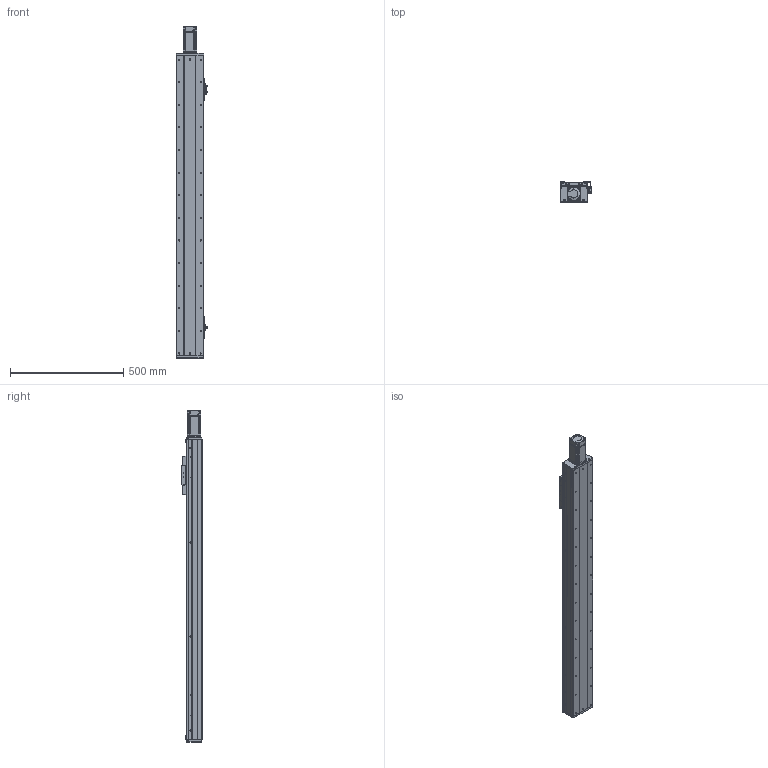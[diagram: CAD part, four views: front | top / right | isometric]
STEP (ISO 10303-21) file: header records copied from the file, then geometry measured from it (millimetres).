
FILE_DESCRIPTION (( 'STEP AP203' ), '1' );
FILE_NAME ('RY120F-L2010-1000-MK.SLDASM_1050.step', '2021-03-02T06:06:02', ( '盈信电脑' ), ( '东莞市道滘镇水果街19号' ), 'SwSTEP 2.0', 'SolidWorks 2012', '' );
FILE_SCHEMA (( 'CONFIG_CONTROL_DESIGN' ));
Length unit declared in the file: millimetre
Products named in the file (23): 15; RY120F-臏賑輸 20蹟譫; 絳寢賑輸EGH15; RY120F-铝滑块上座（优力胶）; RY120F-1000-倰第裔啣_1050; RY120F滅鳥詩湍-1000-MK_1050; RY120F-1000-倰第菁釱_1050; 粣杶; RY120F-蚥薯蝶幗謫郪磁; RY120F-L2010-1000-MK.SLDASM_1050; 蚥薯蝶幗謫; MF95ZZ; 滅袉蝶18-17; RY120F-钢带滚轮轴(优力胶); 672嫖萇羲壽假蚾釱; RY80俋离覜茼え; FY120F詩湍揤踡輸; RY120F綴裔啣(臏璃ㄘ; 滅袉蝶18-24; RY120F不锈钢防尘盖(优力胶）; 覜茼ん672; RY120F眻蟀ヶ裔啣; 侂狟400W侜督萇儂
Assembly tree (34 placements, depth 3):
  RY120F-L2010-1000-MK.SLDASM_1050
    RY120F-1000-倰第菁釱_1050
    RY120F-1000-倰第裔啣_1050  x2
    RY120F滅鳥詩湍-1000-MK_1050
    RY120F-臏賑輸 20蹟譫
    絳寢賑輸EGH15  x2
    RY120F-铝滑块上座（优力胶）
    侂狟400W侜督萇儂
      15
    RY120F眻蟀ヶ裔啣
    RY120F不锈钢防尘盖(优力胶）
    滅袉蝶18-24
    RY120F綴裔啣(臏璃ㄘ
    覜茼ん672  x3
    672嫖萇羲壽假蚾釱  x2
    RY80俋离覜茼え
    FY120F詩湍揤踡輸  x2
    滅袉蝶18-17  x2
    RY120F-蚥薯蝶幗謫郪磁
      RY120F-钢带滚轮轴(优力胶)
      蚥薯蝶幗謫  x2
      MF95ZZ  x4
      粣杶  x2
Bounding box: 140.35 x 89 x 1468.5 mm (x, y, z)
Volume: 4359258.8 mm3; surface area: 1581537.5 mm2
Topology: 32 solids, 32 shells, 2285 faces, 6073 edges, 3891 vertices
Faces by surface type: cylinder 1064, plane 988, cone 215, bspline 18
Entity records: 61008 total; most frequent: CARTESIAN_POINT 10994, DIRECTION 10271, ORIENTED_EDGE 9538, EDGE_CURVE 4769, AXIS2_PLACEMENT_3D 3736, VERTEX_POINT 3123, LINE 2799, VECTOR 2799
